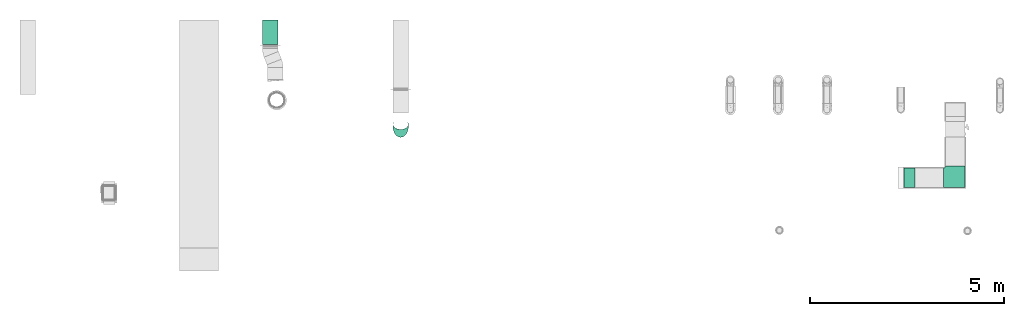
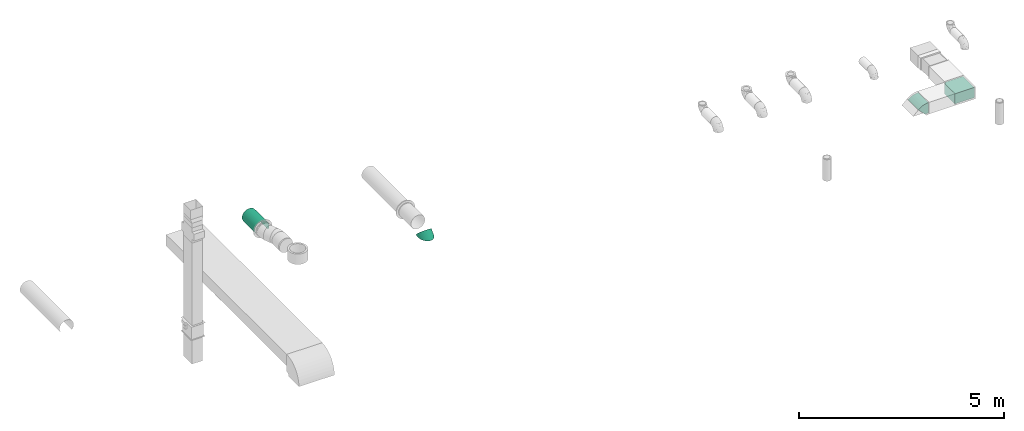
# One storey, part 13 of 14: 2 flow fittings, 2 flow segments.
"""IFC2X3 building model written with IfcOpenShell, lengths in millimetres."""

from ifc_helpers import new_model, entity, si_unit, converted_unit, derived_unit, direction, frame, origin_with_axes, place, context, subcontext, project, spatial, open_shell, faceted_brep, surface_model, source, transform, mapped, type_object, element, save


model = new_model("IFC2X3")

# Units and contexts
model_context = context("Model", 3, precision=0.01, world=frame((0.0, 4.29681676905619e-09, 0.0)), true_north=direction((4.01073788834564e-13, 1.0)))
plan_context = context("Plan", 3, precision=0.01, world=frame((0.0, 4.29681676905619e-09, 0.0)), true_north=direction((4.01073788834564e-13, 1.0)))
body_context = subcontext(model_context, "Body", "Model", "MODEL_VIEW")
ifc_project = project(units=[converted_unit("PLANEANGLEUNIT", "DEGREE", entity("IfcPositiveLengthMeasure", 0.0174532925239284), si_unit("PLANEANGLEUNIT", "RADIAN"), dimensions=[0, 0, 0, 0, 0, 0, 0]), si_unit("AREAUNIT", "SQUARE_METRE"), si_unit("LENGTHUNIT", "METRE", prefix="MILLI"), si_unit("MASSUNIT", "GRAM", prefix="KILO"), si_unit("POWERUNIT", "WATT"), si_unit("PRESSUREUNIT", "PASCAL", prefix="KILO"), si_unit("FORCEUNIT", "NEWTON", prefix="KILO"), si_unit("ELECTRICVOLTAGEUNIT", "VOLT"), si_unit("ELECTRICCURRENTUNIT", "AMPERE"), si_unit("THERMODYNAMICTEMPERATUREUNIT", "DEGREE_CELSIUS"), si_unit("TIMEUNIT", "SECOND"), si_unit("VOLUMEUNIT", "CUBIC_METRE"), derived_unit("LINEARVELOCITYUNIT", [(si_unit("LENGTHUNIT", "METRE"), 1), (si_unit("TIMEUNIT", "SECOND"), -1)]), derived_unit("VOLUMETRICFLOWRATEUNIT", [(si_unit("VOLUMEUNIT", "CUBIC_METRE"), 1), (si_unit("TIMEUNIT", "SECOND"), -1)]), derived_unit("THERMALTRANSMITTANCEUNIT", [(si_unit("POWERUNIT", "WATT"), 1), (si_unit("THERMODYNAMICTEMPERATUREUNIT", "KELVIN"), -1), (si_unit("AREAUNIT", "SQUARE_METRE"), -1)]), derived_unit("SOUNDPRESSUREUNIT", [(si_unit("PRESSUREUNIT", "PASCAL"), 1)])], contexts=[model_context, plan_context])

# Site, building, storey
site_placement = place(None, frame((0.0, -4.29681676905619e-09, 0.0), z_axis=(0.0, 0.0, 1.0), x_axis=(1.0, 0.0, 0.0)))
site = spatial("IfcSite", under=ifc_project, at=site_placement, CompositionType="ELEMENT")
building_placement = place(site_placement, frame((0.0, 4.29681676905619e-09, 0.0), z_axis=(0.0, 0.0, 1.0), x_axis=(1.0, 0.0, 0.0)))
building = spatial("IfcBuilding", under=site, at=building_placement, Name="mc-building", CompositionType="ELEMENT")
storey_placement = place(building_placement, frame((0.0, 0.0, 205200.0), z_axis=(0.0, 0.0, 1.0), x_axis=(1.0, 0.0, 0.0)))
storey = spatial("IfcBuildingStorey", under=building, at=storey_placement, Name="Nivå D + 1,2 m", CompositionType="ELEMENT", Elevation=205200.0)

# Flow fittings
duct_fitting_type_1 = type_object("IfcDuctFittingType", Name="Lindab LBR", PredefinedType="BEND")
shared_shape_1 = source(origin_with_axes(), body_context, "Body", "SurfaceModel", [
    surface_model("IfcShellBasedSurfaceModel", [(-251.70371, 287.05904, 150.0), (-256.69872, 275.0, 150.0), (250.0, 300.0, 150.0), (-250.0, 301.5, 150.0), (250.0, 301.5, 150.0), (-250.0, 300.0, 150.0), (-264.64466, 264.64466, 150.0), (-301.5, 250.0, 150.0), (-301.5, -250.0, 150.0), (-300.0, 250.0, 150.0), (-287.05904, 251.70371, 150.0), (-275.0, 256.69872, 150.0), (250.0, -250.0, 150.0), (-301.5, -250.0, -150.0), (-301.5, 250.0, -150.0), (-300.0, 250.0, -150.0), (-287.05904, 251.70371, -150.0), (250.0, -250.0, -150.0), (-264.64466, 264.64466, -150.0), (-275.0, 256.69872, -150.0), (-256.69872, 275.0, -150.0), (-251.70371, 287.05904, -150.0), (250.0, 300.0, -150.0), (-250.0, 300.0, -150.0), (-250.0, 301.5, -150.0), (250.0, 301.5, -150.0)], [open_shell([[[0, 1, 2]], [[3, 2, 4]], [[2, 3, 5]], [[2, 5, 0]], [[1, 6, 2]], [[7, 8, 9]], [[9, 8, 10]], [[11, 8, 6]], [[8, 11, 10]], [[8, 12, 6]], [[6, 12, 2]], [[13, 14, 15]], [[13, 15, 16]], [[17, 13, 18]], [[19, 13, 16]], [[18, 13, 19]], [[20, 21, 22]], [[18, 20, 22]], [[23, 22, 21]], [[22, 23, 24]], [[24, 25, 22]], [[18, 22, 17]], [[20, 1, 0]], [[23, 0, 5]], [[0, 23, 21]], [[0, 21, 20]], [[20, 18, 1]], [[18, 6, 1]], [[10, 11, 16]], [[9, 10, 15]], [[18, 19, 6]], [[19, 11, 6]], [[16, 11, 19]], [[16, 15, 10]], [[7, 9, 14]], [[15, 14, 9]], [[8, 7, 14]], [[14, 13, 8]], [[12, 8, 13]], [[13, 17, 12]], [[2, 12, 22]], [[17, 22, 12]], [[4, 2, 25]], [[22, 25, 2]], [[3, 4, 25]], [[25, 24, 3]], [[5, 3, 24]], [[24, 23, 5]]])]),
])
flow_fitting_1_placement = place(storey_placement, frame((347143.0, 463433.0, 4092.5), z_axis=(0.0, 0.0, 1.0), x_axis=(1.0, 0.0, 0.0)))
element("IfcFlowFitting", 1, at=flow_fitting_1_placement, inside=storey, type_object=duct_fitting_type_1, Name="Lindab LBR", context=body_context, shape_type="MappedRepresentation", body=[
    mapped(shared_shape_1, transform((0.0, 0.0, 0.0), scale=1.0)),
])
duct_fitting_type_2 = type_object("IfcDuctFittingType", Name="magirect_elbow1_001", PredefinedType="BEND")
shared_shape_2 = source(origin_with_axes(), body_context, "Body", "SurfaceModel", [
    surface_model("IfcShellBasedSurfaceModel", [(-103.55339, 150.0, 250.0), (-103.55339, 150.0, -250.0), (-103.55339, -150.0, -250.0), (-103.55339, -150.0, 250.0), (179.28933, -32.84271, -250.0), (-32.84271, 179.28933, -250.0), (-32.84271, 179.28933, 250.0), (179.28933, -32.84271, 250.0), (-77.67149, 153.40742, 250.0), (-77.67149, 153.40742, -250.0), (-53.55339, 163.39746, -250.0), (-53.55339, 163.39746, 250.0), (78.04281, -106.40261, -250.0), (131.56071, -73.6068, -250.0), (-40.9796, -145.07534, -250.0), (20.05341, -130.42261, -250.0), (20.05341, -130.42261, 250.0), (-40.9796, -145.07534, 250.0), (78.04281, -106.40261, 250.0), (131.56071, -73.6068, 250.0)], [open_shell([[[0, 1, 2]], [[2, 3, 0]], [[4, 5, 6]], [[6, 7, 4]], [[8, 9, 1]], [[1, 0, 8]], [[8, 10, 9]], [[11, 5, 10]], [[5, 11, 6]], [[8, 11, 10]], [[9, 10, 12]], [[13, 5, 4]], [[5, 13, 10]], [[14, 1, 9]], [[9, 15, 14]], [[10, 13, 12]], [[12, 15, 9]], [[1, 14, 2]], [[14, 15, 16]], [[2, 14, 3]], [[17, 3, 14]], [[16, 17, 14]], [[15, 12, 16]], [[18, 12, 13]], [[19, 13, 4]], [[13, 19, 18]], [[19, 4, 7]], [[12, 18, 16]], [[18, 11, 8]], [[7, 6, 19]], [[11, 19, 6]], [[8, 0, 17]], [[17, 16, 8]], [[18, 19, 11]], [[8, 16, 18]], [[3, 17, 0]]])]),
])
flow_fitting_2_placement = place(storey_placement, frame((345997.62386, 463433.0, 4092.5), z_axis=(0.0, 1.0, 0.0), x_axis=(0.707106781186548, 0.0, 0.707106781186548)))
element("IfcFlowFitting", 2, at=flow_fitting_2_placement, inside=storey, type_object=duct_fitting_type_2, Name="magirect_elbow1_001", context=body_context, shape_type="MappedRepresentation", body=[
    mapped(shared_shape_2, transform((0.0, 0.0, 0.0), scale=1.0)),
])

# Flow segments
duct_segment_type = type_object("IfcDuctSegmentType", Name="2 - Spiro kanaler, Forsinket stål", PredefinedType="RIGIDSEGMENT")
flow_segment_1_placement = place(storey_placement, frame((329465.56528, 466872.10681, 4099.98340999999), z_axis=(0.0, 0.0, 1.0), x_axis=(0.0, 1.0, 0.0)))
element("IfcFlowSegment", 3, at=flow_segment_1_placement, inside=storey, type_object=duct_segment_type, Name="2 - Spiro kanaler, Forsinket stål", context=body_context, shape_type="Brep", body=[
    faceted_brep([(627.893189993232, 198.0, 0.0), (627.893189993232, 194.991935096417, -34.3823391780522), (0.0, 194.991935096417, -34.3823391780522), (0.0, 198.0, 0.0), (627.893189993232, 186.05913891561, -67.7199883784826), (0.0, 186.05913891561, -67.7199883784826), (627.893189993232, 171.473029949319, -99.0000000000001), (0.0, 171.473029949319, -99.0000000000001), (627.893189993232, 171.014458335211, -99.9834099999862), (0.0, 170.784438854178, -99.9834099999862), (0.0, -170.784438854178, -99.9834099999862), (627.893189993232, -170.784438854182, -99.9834099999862), (627.893189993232, -171.473029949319, -98.9999999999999), (0.0, -171.473029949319, -98.9999999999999), (627.893189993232, -186.05913891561, -67.7199883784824), (0.0, -186.05913891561, -67.7199883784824), (627.893189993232, -194.991935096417, -34.3823391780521), (0.0, -194.991935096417, -34.3823391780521), (627.893189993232, -198.0, 2.42480066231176e-14), (0.0, -198.0, 2.42480066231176e-14), (627.893189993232, -194.991935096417, 34.3823391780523), (0.0, -194.991935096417, 34.3823391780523), (627.893189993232, -186.05913891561, 67.7199883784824), (0.0, -186.05913891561, 67.7199883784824), (627.893189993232, -171.473029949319, 99.0), (0.0, -171.473029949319, 99.0), (627.893189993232, -151.676799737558, 127.271946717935), (0.0, -151.676799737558, 127.271946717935), (627.893189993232, -127.271946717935, 151.676799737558), (0.0, -127.271946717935, 151.676799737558), (627.893189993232, -99.0, 171.473029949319), (0.0, -99.0, 171.473029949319), (627.893189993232, -67.7199883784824, 186.05913891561), (0.0, -67.7199883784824, 186.05913891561), (627.893189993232, -34.3823391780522, 194.991935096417), (0.0, -34.3823391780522, 194.991935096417), (627.893189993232, 1.21240033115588e-14, 198.0), (0.0, 1.21240033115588e-14, 198.0), (627.893189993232, 34.3823391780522, 194.991935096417), (0.0, 34.3823391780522, 194.991935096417), (627.893189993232, 67.7199883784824, 186.05913891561), (0.0, 67.7199883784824, 186.05913891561), (627.893189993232, 99.0, 171.473029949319), (0.0, 99.0, 171.473029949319), (627.893189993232, 127.271946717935, 151.676799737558), (0.0, 127.271946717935, 151.676799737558), (627.893189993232, 151.676799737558, 127.271946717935), (0.0, 151.676799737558, 127.271946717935), (627.893189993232, 171.473029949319, 99.0), (0.0, 171.473029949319, 99.0), (627.893189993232, 186.05913891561, 67.7199883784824), (0.0, 186.05913891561, 67.7199883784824), (627.893189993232, 194.991935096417, 34.3823391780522), (0.0, 194.991935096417, 34.3823391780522), (627.893189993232, 196.961550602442, -34.7296355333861), (627.893189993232, 200.0, 0.0), (0.0, 200.0, 0.0), (0.0, 196.961550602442, -34.7296355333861), (627.893189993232, 196.961550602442, 34.7296355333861), (0.0, 196.961550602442, 34.7296355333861), (627.893189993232, 187.938524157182, 68.4040286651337), (0.0, 187.938524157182, 68.4040286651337), (627.893189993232, 173.205080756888, 100.0), (0.0, 173.205080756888, 100.0), (627.893189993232, 153.208888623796, 128.557521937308), (0.0, 153.208888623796, 128.557521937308), (627.893189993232, 128.557521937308, 153.208888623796), (0.0, 128.557521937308, 153.208888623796), (627.893189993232, 100.0, 173.205080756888), (0.0, 100.0, 173.205080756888), (627.893189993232, 68.4040286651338, 187.938524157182), (0.0, 68.4040286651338, 187.938524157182), (627.893189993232, 34.7296355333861, 196.961550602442), (0.0, 34.7296355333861, 196.961550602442), (627.893189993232, 1.22464679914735e-14, 200.0), (0.0, 1.22464679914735e-14, 200.0), (627.893189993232, -34.7296355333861, 196.961550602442), (0.0, -34.7296355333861, 196.961550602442), (627.893189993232, -68.4040286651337, 187.938524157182), (0.0, -68.4040286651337, 187.938524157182), (627.893189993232, -100.0, 173.205080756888), (0.0, -100.0, 173.205080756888), (627.893189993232, -128.557521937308, 153.208888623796), (0.0, -128.557521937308, 153.208888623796), (627.893189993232, -153.208888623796, 128.557521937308), (0.0, -153.208888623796, 128.557521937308), (627.893189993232, -173.205080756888, 100.0), (0.0, -173.205080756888, 100.0), (627.893189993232, -187.938524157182, 68.4040286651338), (0.0, -187.938524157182, 68.4040286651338), (627.893189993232, -196.961550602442, 34.7296355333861), (0.0, -196.961550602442, 34.7296355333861), (627.893189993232, -200.0, 2.44929359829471e-14), (0.0, -200.0, 2.44929359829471e-14), (627.893189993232, -196.961550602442, -34.729635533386), (0.0, -196.961550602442, -34.729635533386), (627.893189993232, -187.938524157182, -68.4040286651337), (0.0, -187.938524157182, -68.4040286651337), (0.0, -173.212816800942, -99.9834099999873), (0.0, 173.212816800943, -99.9834099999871), (627.893189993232, 187.938524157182, -68.4040286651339), (0.0, 187.938524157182, -68.4040286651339), (627.893189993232, -173.212816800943, -99.9834099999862), (627.893189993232, 173.212816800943, -99.9834099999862), (0.0, 173.205080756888, -100.0), (0.0, -173.205080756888, -99.9999999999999)], [[[0, 1, 2, 3]], [[1, 4, 5, 2]], [[4, 6, 7, 5]], [[6, 8, 9, 7]], [[10, 11, 12, 13]], [[12, 14, 15, 13]], [[14, 16, 17, 15]], [[16, 18, 19, 17]], [[18, 20, 21, 19]], [[20, 22, 23, 21]], [[22, 24, 25, 23]], [[24, 26, 27, 25]], [[26, 28, 29, 27]], [[28, 30, 31, 29]], [[30, 32, 33, 31]], [[32, 34, 35, 33]], [[34, 36, 37, 35]], [[36, 38, 39, 37]], [[38, 40, 41, 39]], [[40, 42, 43, 41]], [[42, 44, 45, 43]], [[44, 46, 47, 45]], [[46, 48, 49, 47]], [[48, 50, 51, 49]], [[50, 52, 53, 51]], [[52, 0, 3, 53]], [[54, 55, 56, 57]], [[55, 58, 59, 56]], [[58, 60, 61, 59]], [[60, 62, 63, 61]], [[62, 64, 65, 63]], [[64, 66, 67, 65]], [[66, 68, 69, 67]], [[68, 70, 71, 69]], [[70, 72, 73, 71]], [[72, 74, 75, 73]], [[74, 76, 77, 75]], [[76, 78, 79, 77]], [[78, 80, 81, 79]], [[80, 82, 83, 81]], [[82, 84, 85, 83]], [[84, 86, 87, 85]], [[86, 88, 89, 87]], [[88, 90, 91, 89]], [[90, 92, 93, 91]], [[92, 94, 95, 93]], [[94, 96, 97, 95]], [[96, 11, 98, 97]], [[99, 8, 100, 101]], [[100, 54, 57, 101]], [[98, 10, 13, 15, 17, 19, 21, 23, 25, 27, 29, 31, 33, 35, 37, 39, 41, 43, 45, 47, 49, 51, 53, 3, 2, 5, 7, 9, 99, 101, 57, 56, 59, 61, 63, 65, 67, 69, 71, 73, 75, 77, 79, 81, 83, 85, 87, 89, 91, 93, 95, 97]], [[102, 96, 94, 92, 90, 88, 86, 84, 82, 80, 78, 76, 74, 72, 70, 68, 66, 64, 62, 60, 58, 55, 54, 100, 103, 6, 4, 1, 0, 52, 50, 48, 46, 44, 42, 40, 38, 36, 34, 32, 30, 28, 26, 24, 22, 20, 18, 16, 14, 12]], [[103, 104, 9]], [[102, 10, 105]]], orient=[[False], [False], [False], [False], [False], [False], [False], [False], [False], [False], [False], [False], [False], [False], [False], [False], [False], [False], [False], [False], [False], [False], [False], [False], [False], [False], [False], [False], [False], [False], [False], [False], [False], [False], [False], [False], [False], [False], [False], [False], [False], [False], [False], [False], [False], [False], [False], [False], [False], [False], [False], [False], [False], [False]]),
])
flow_segment_2_placement = place(storey_placement, frame((332833.11956, 464814.99268, 4058.51959000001), z_axis=(0.0, -0.707106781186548, 0.707106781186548), x_axis=(0.0, -0.707106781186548, -0.707106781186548)))
element("IfcFlowSegment", 4, at=flow_segment_2_placement, inside=storey, type_object=duct_segment_type, Name="2 - Spiro kanaler, Forsinket stål", context=body_context, shape_type="Brep", body=[
    faceted_brep([(82.7591978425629, 198.0, 0.0), (48.3768586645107, 194.991935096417, -34.3823391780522), (0.0, 194.991935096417, -34.3823391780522), (0.0, 198.0, 0.0), (15.0392094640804, 186.05913891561, -67.7199883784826), (0.0, 186.05913891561, -67.7199883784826), (0.0, 179.046240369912, -82.759197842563), (0.0, -179.046240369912, -82.7591978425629), (15.0392094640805, -186.05913891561, -67.7199883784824), (0.0, -186.05913891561, -67.7199883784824), (48.3768586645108, -194.991935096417, -34.3823391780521), (0.0, -194.991935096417, -34.3823391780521), (82.759197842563, -198.0, 2.42480066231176e-14), (0.0, -198.0, 2.42480066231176e-14), (117.141537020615, -194.991935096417, 34.3823391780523), (0.0, -194.991935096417, 34.3823391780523), (150.479186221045, -186.05913891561, 67.7199883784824), (0.0, -186.05913891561, 67.7199883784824), (181.759197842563, -171.473029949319, 99.0), (0.0, -171.473029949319, 99.0), (210.031144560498, -151.676799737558, 127.271946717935), (0.0, -151.676799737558, 127.271946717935), (234.435997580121, -127.271946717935, 151.676799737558), (0.0, -127.271946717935, 151.676799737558), (254.232227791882, -99.0, 171.473029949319), (0.0, -99.0, 171.473029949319), (268.818336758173, -67.7199883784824, 186.05913891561), (0.0, -67.7199883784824, 186.05913891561), (277.75113293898, -34.3823391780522, 194.991935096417), (0.0, -34.3823391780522, 194.991935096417), (280.759197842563, 1.21240033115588e-14, 198.0), (0.0, 1.21240033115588e-14, 198.0), (277.75113293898, 34.3823391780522, 194.991935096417), (0.0, 34.3823391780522, 194.991935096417), (268.818336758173, 67.7199883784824, 186.05913891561), (0.0, 67.7199883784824, 186.05913891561), (254.232227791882, 99.0, 171.473029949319), (0.0, 99.0, 171.473029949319), (234.435997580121, 127.271946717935, 151.676799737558), (0.0, 127.271946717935, 151.676799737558), (210.031144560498, 151.676799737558, 127.271946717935), (0.0, 151.676799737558, 127.271946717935), (181.759197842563, 171.473029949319, 99.0), (0.0, 171.473029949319, 99.0), (150.479186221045, 186.05913891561, 67.7199883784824), (0.0, 186.05913891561, 67.7199883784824), (117.141537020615, 194.991935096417, 34.3823391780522), (0.0, 194.991935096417, 34.3823391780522), (48.0295623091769, 196.961550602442, -34.7296355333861), (82.7591978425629, 200.0, 0.0), (0.0, 200.0, 0.0), (0.0, 196.961550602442, -34.7296355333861), (117.488833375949, 196.961550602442, 34.7296355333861), (0.0, 196.961550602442, 34.7296355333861), (151.163226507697, 187.938524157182, 68.4040286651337), (0.0, 187.938524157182, 68.4040286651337), (182.759197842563, 173.205080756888, 100.0), (0.0, 173.205080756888, 100.0), (211.316719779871, 153.208888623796, 128.557521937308), (0.0, 153.208888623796, 128.557521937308), (235.968086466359, 128.557521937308, 153.208888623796), (0.0, 128.557521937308, 153.208888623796), (255.964278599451, 100.0, 173.205080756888), (0.0, 100.0, 173.205080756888), (270.697721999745, 68.4040286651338, 187.938524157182), (0.0, 68.4040286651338, 187.938524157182), (279.720748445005, 34.7296355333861, 196.961550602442), (0.0, 34.7296355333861, 196.961550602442), (282.759197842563, 1.22464679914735e-14, 200.0), (0.0, 1.22464679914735e-14, 200.0), (279.720748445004, -34.7296355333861, 196.961550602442), (0.0, -34.7296355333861, 196.961550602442), (270.697721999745, -68.4040286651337, 187.938524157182), (0.0, -68.4040286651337, 187.938524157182), (255.964278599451, -100.0, 173.205080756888), (0.0, -100.0, 173.205080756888), (235.968086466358, -128.557521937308, 153.208888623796), (0.0, -128.557521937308, 153.208888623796), (211.316719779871, -153.208888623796, 128.557521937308), (0.0, -153.208888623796, 128.557521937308), (182.759197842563, -173.205080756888, 100.0), (0.0, -173.205080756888, 100.0), (151.163226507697, -187.938524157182, 68.4040286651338), (0.0, -187.938524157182, 68.4040286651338), (117.488833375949, -196.961550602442, 34.7296355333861), (0.0, -196.961550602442, 34.7296355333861), (82.7591978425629, -200.0, 2.44929359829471e-14), (0.0, -200.0, 2.44929359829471e-14), (48.029562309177, -196.961550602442, -34.729635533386), (0.0, -196.961550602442, -34.729635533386), (14.3551691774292, -187.938524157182, -68.4040286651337), (0.0, -187.938524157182, -68.4040286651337), (0.0, -181.244598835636, -82.759197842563), (0.0, 181.244598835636, -82.7591978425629), (14.3551691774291, 187.938524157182, -68.4040286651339), (0.0, 187.938524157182, -68.4040286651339)], [[[0, 1, 2, 3]], [[1, 4, 5, 2]], [[4, 6, 5]], [[7, 8, 9]], [[8, 10, 11, 9]], [[10, 12, 13, 11]], [[12, 14, 15, 13]], [[14, 16, 17, 15]], [[16, 18, 19, 17]], [[18, 20, 21, 19]], [[20, 22, 23, 21]], [[22, 24, 25, 23]], [[24, 26, 27, 25]], [[26, 28, 29, 27]], [[28, 30, 31, 29]], [[30, 32, 33, 31]], [[32, 34, 35, 33]], [[34, 36, 37, 35]], [[36, 38, 39, 37]], [[38, 40, 41, 39]], [[40, 42, 43, 41]], [[42, 44, 45, 43]], [[44, 46, 47, 45]], [[46, 0, 3, 47]], [[48, 49, 50, 51]], [[49, 52, 53, 50]], [[52, 54, 55, 53]], [[54, 56, 57, 55]], [[56, 58, 59, 57]], [[58, 60, 61, 59]], [[60, 62, 63, 61]], [[62, 64, 65, 63]], [[64, 66, 67, 65]], [[66, 68, 69, 67]], [[68, 70, 71, 69]], [[70, 72, 73, 71]], [[72, 74, 75, 73]], [[74, 76, 77, 75]], [[76, 78, 79, 77]], [[78, 80, 81, 79]], [[80, 82, 83, 81]], [[82, 84, 85, 83]], [[84, 86, 87, 85]], [[86, 88, 89, 87]], [[88, 90, 91, 89]], [[90, 92, 91]], [[93, 94, 95]], [[94, 48, 51, 95]], [[92, 7, 9, 11, 13, 15, 17, 19, 21, 23, 25, 27, 29, 31, 33, 35, 37, 39, 41, 43, 45, 47, 3, 2, 5, 6, 93, 95, 51, 50, 53, 55, 57, 59, 61, 63, 65, 67, 69, 71, 73, 75, 77, 79, 81, 83, 85, 87, 89, 91]], [[46, 44, 42, 40, 38, 36, 34, 32, 30, 28, 26, 24, 22, 20, 18, 16, 14, 12, 10, 8, 7, 92, 90, 88, 86, 84, 82, 80, 78, 76, 74, 72, 70, 68, 66, 64, 62, 60, 58, 56, 54, 52, 49, 48, 94, 93, 6, 4, 1, 0]]], orient=[[False], [False], [False], [False], [False], [False], [False], [False], [False], [False], [False], [False], [False], [False], [False], [False], [False], [False], [False], [False], [False], [False], [False], [False], [False], [False], [False], [False], [False], [False], [False], [False], [False], [False], [False], [False], [False], [False], [False], [False], [False], [False], [False], [False], [False], [False], [False], [False], [False], [False]]),
])

save(model, "model.ifc")
